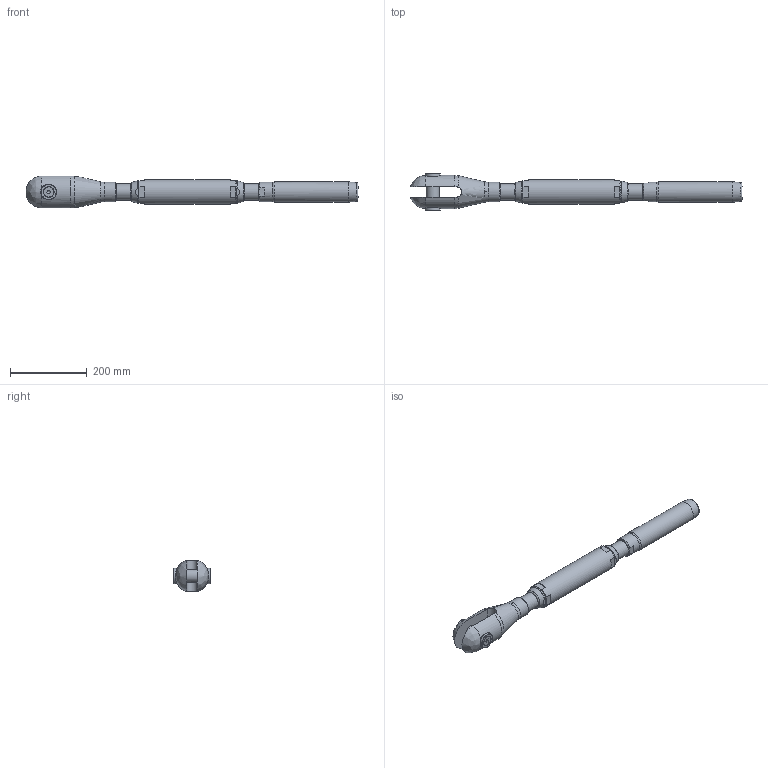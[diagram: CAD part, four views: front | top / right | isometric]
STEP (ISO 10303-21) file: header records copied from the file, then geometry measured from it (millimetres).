
FILE_DESCRIPTION(/* description */ (''),/* implementation_level */ '2;1');
FILE_NAME(/* name */ 'TBC 24_S355',/* time_stamp */ '2023-05-23T18:17:38+02:00',/* author */ (''),/* organization */ (''),/* preprocessor_version */ 'ST-DEVELOPER v16.5',/* originating_system */ 'Rhino 7.22',/* authorisation */ '');
FILE_SCHEMA (('CONFIG_CONTROL_DESIGN'));
Length unit declared in the file: millimetre
Products named in the file (1): Document
Bounding box: 866.32 x 95.2 x 82.7 mm (x, y, z)
Volume: 2228873.4 mm3; surface area: 289463.8 mm2
Topology: 10 solids, 10 shells, 141 faces, 384 edges, 265 vertices
Faces by surface type: plane 65, bspline 41, cylinder 35
Full cylindrical faces by diameter (mm): 11.835 x2, 14 x2, 14.5 x2, 26.52 x2, 34 x1, 36 x2, 38.752 x4, 40 x2, 42 x2, 46 x1, 50.8 x2, 53.4 x1, 64 x1
Entity records: 5934 total; most frequent: CARTESIAN_POINT 3498, ORIENTED_EDGE 760, EDGE_CURVE 380, VERTEX_POINT 265, EDGE_LOOP 161, B_SPLINE_CURVE_WITH_KNOTS 158, ADVANCED_FACE 141, FACE_OUTER_BOUND 141
